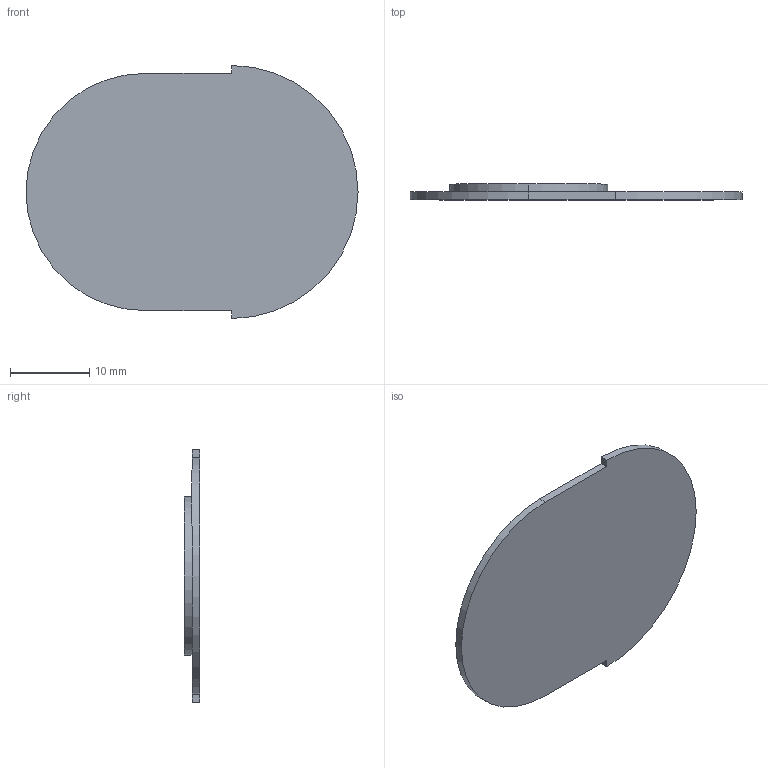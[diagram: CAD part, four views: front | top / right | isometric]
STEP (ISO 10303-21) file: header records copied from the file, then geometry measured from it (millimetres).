
FILE_DESCRIPTION(/* description */ (''),/* implementation_level */ '2;1');
FILE_NAME(/* name */ 'C:\Users\user\Documents\Inventor\Home Ventilator CPAP\flap.stp',/* time_stamp */ '2020-04-03T13:38:56+02:00',/* author */ ('user'),/* organization */ (''),/* preprocessor_version */ 'ST-DEVELOPER v16.5',/* originating_system */ 'Autodesk Inventor 2017',/* authorisation */ '');
FILE_SCHEMA (('AUTOMOTIVE_DESIGN { 1 0 10303 214 3 1 1 }'));
Length unit declared in the file: millimetre
Products named in the file (1): flap
Bounding box: 42 x 2 x 32 mm (x, y, z)
Surface area: 2355.3 mm2 (no closed solid volume)
Topology: 0 solids, 11 shells, 11 faces, 46 edges, 46 vertices
Faces by surface type: plane 7, cylinder 4
Entity records: 547 total; most frequent: CARTESIAN_POINT 104, DIRECTION 84, VERTEX_POINT 46, EDGE_CURVE 46, ORIENTED_EDGE 46, LINE 32, VECTOR 32, AXIS2_PLACEMENT_3D 26
